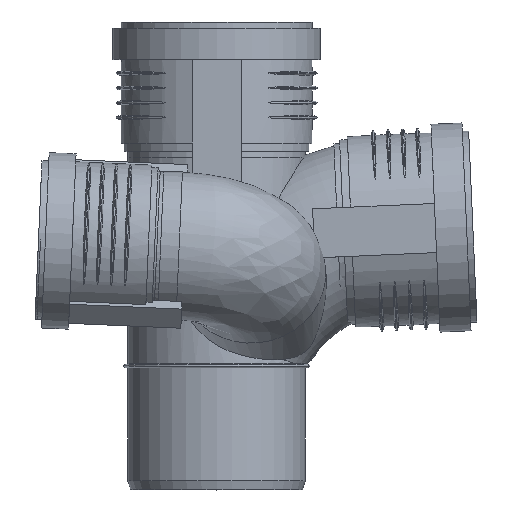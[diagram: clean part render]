
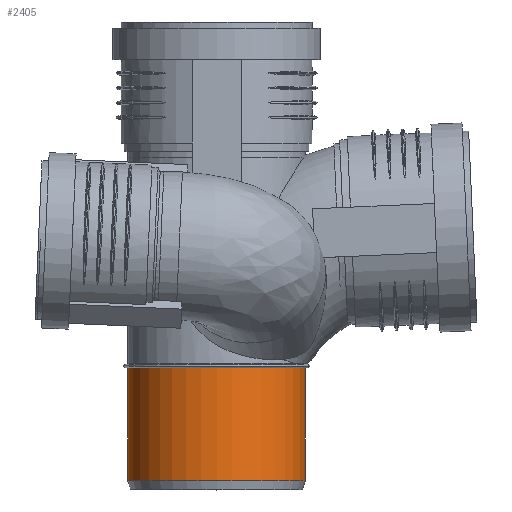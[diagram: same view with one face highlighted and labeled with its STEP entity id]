
A CAD part, top view. The second image highlights one B-rep face of the part: STEP entity #2405.
In plain terms, the highlighted cylindrical face has radius 45.1 mm (diameter 90.2 mm), a full revolution.
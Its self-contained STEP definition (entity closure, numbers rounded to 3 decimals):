
#115=FACE_BOUND($,#536,.T.);
#383=FACE_OUTER_BOUND($,#535,.T.);
#535=EDGE_LOOP($,(#1663));
#536=EDGE_LOOP($,(#1664));
#729=CIRCLE($,#2590,45.1);
#730=CIRCLE($,#2592,45.1);
#1023=VERTEX_POINT($,#4126);
#1024=VERTEX_POINT($,#4129);
#1280=EDGE_CURVE($,#1023,#1023,#729,.T.);
#1281=EDGE_CURVE($,#1024,#1024,#730,.T.);
#1663=ORIENTED_EDGE($,*,*,#1280,.T.);
#1664=ORIENTED_EDGE($,*,*,#1281,.F.);
#2191=CYLINDRICAL_SURFACE($,#2591,45.1);
#2405=ADVANCED_FACE($,(#383,#115),#2191,.T.);
#2590=AXIS2_PLACEMENT_3D($,#4127,#2933,#2934);
#2591=AXIS2_PLACEMENT_3D($,#4128,#2935,#2936);
#2592=AXIS2_PLACEMENT_3D($,#4130,#2937,#2938);
#2933=DIRECTION('center_axis',(0.,1.,0.));
#2934=DIRECTION('ref_axis',(-1.,0.,0.));
#2935=DIRECTION('center_axis',(0.,1.,0.));
#2936=DIRECTION('ref_axis',(-1.,0.,0.));
#2937=DIRECTION('center_axis',(0.,1.,0.));
#2938=DIRECTION('ref_axis',(-1.,0.,0.));
#4126=CARTESIAN_POINT('',(-45.1,4.5,0.));
#4127=CARTESIAN_POINT('Origin',(0.,4.5,0.));
#4128=CARTESIAN_POINT('Origin',(0.,33.25,0.));
#4129=CARTESIAN_POINT('',(-45.1,62.,0.));
#4130=CARTESIAN_POINT('Origin',(0.,62.,0.));
